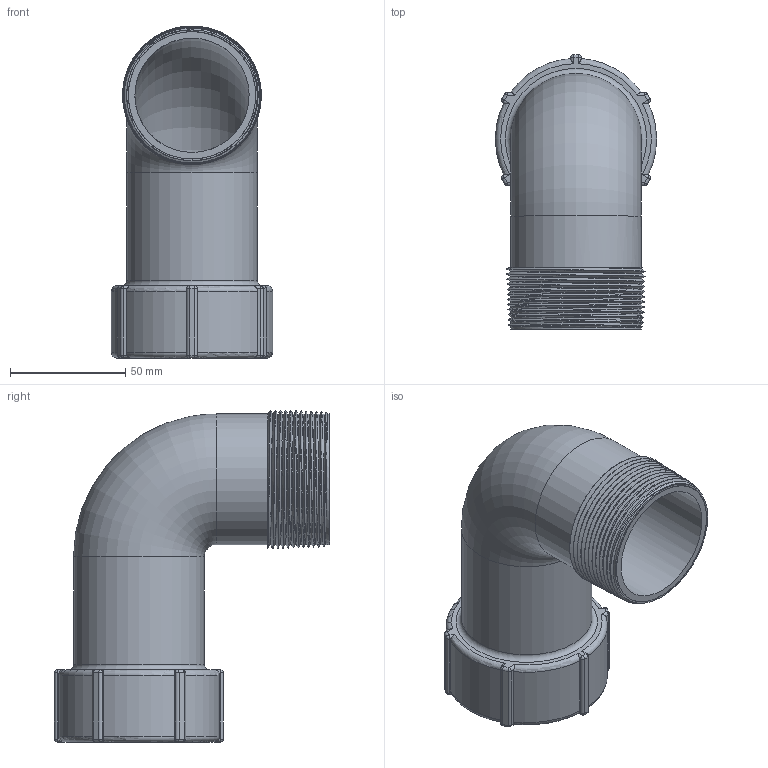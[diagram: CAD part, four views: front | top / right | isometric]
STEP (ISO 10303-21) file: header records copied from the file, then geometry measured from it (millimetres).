
FILE_DESCRIPTION(/* description */ ('Alibre Inc.'),/* implementation_level */ '2;1');
FILE_NAME(/* name */ 'export0',/* time_stamp */ '2016-11-30T09:26:48-05:00',/* author */ (''),/* organization */ (''),/* preprocessor_version */ 'ST-DEVELOPER v14',/* originating_system */ 'Alibre',/* authorisation */ '');
FILE_SCHEMA (('CONFIG_CONTROL_DESIGN'));
Length unit declared in the file: centimetre
Products named in the file (1): ID_2
Bounding box: 69.85 x 119.16 x 143.83 mm (x, y, z)
Volume: 134098.6 mm3; surface area: 73626.1 mm2
Topology: 1 solids, 1 shells, 525 faces, 1550 edges, 1015 vertices
Faces by surface type: bspline 174, plane 145, cone 89, cylinder 78, sphere 24, torus 15
Full cylindrical faces by diameter (mm): 49.53 x2, 56.642 x13
Entity records: 364968 total; most frequent: CARTESIAN_POINT 355186, ORIENTED_EDGE 2976, EDGE_CURVE 1488, VERTEX_POINT 988, DIRECTION 770, B_SPLINE_CURVE_WITH_KNOTS 665, EDGE_LOOP 528, FACE_BOUND 528
